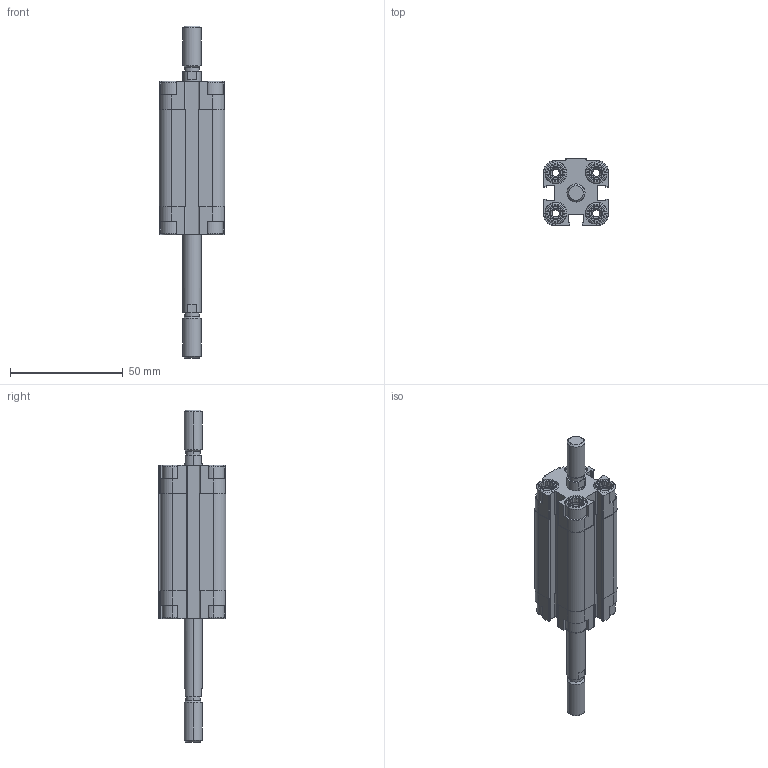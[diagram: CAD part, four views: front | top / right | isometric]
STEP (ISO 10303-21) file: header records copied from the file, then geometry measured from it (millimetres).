
FILE_DESCRIPTION (( 'STEP AP203' ), '1' );
FILE_NAME ('CDVU16-30M-P.STEP', '2020-07-21T15:04:43', ( '' ), ( '' ), 'SwSTEP 2.0', 'SolidWorks 2019', '' );
FILE_SCHEMA (( 'CONFIG_CONTROL_DESIGN' ));
Length unit declared in the file: millimetre
Products named in the file (1): CDVU16-30M-P
Bounding box: 29 x 30 x 147 mm (x, y, z)
Volume: 42199.7 mm3; surface area: 24249.5 mm2
Topology: 2 solids, 2 shells, 566 faces, 1504 edges, 978 vertices
Faces by surface type: plane 338, cylinder 164, cone 48, torus 16
Entity records: 17771 total; most frequent: CARTESIAN_POINT 3621, ORIENTED_EDGE 3000, DIRECTION 2850, EDGE_CURVE 1500, VERTEX_POINT 978, AXIS2_PLACEMENT_3D 975, LINE 900, VECTOR 900
